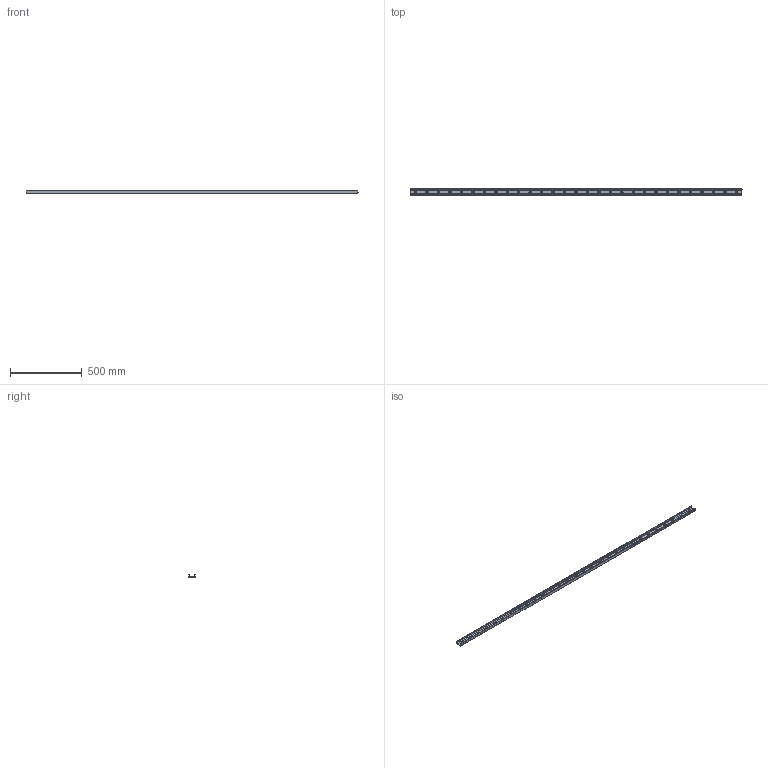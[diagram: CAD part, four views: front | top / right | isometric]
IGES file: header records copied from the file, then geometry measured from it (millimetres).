
Start section: SolidWorks IGES file using analytic representation for surfaces
Global section: file name: C:\Users\IanO\Desktop\43\L1943.ULV43_v2_20180121_IGES\L1943.ULV43-2320.igs; native system: SolidWorks 2017; preprocessor: SolidWorks 2017; author: IanO; date: 190121.090301; units: millimetre
Bounding box: 2320 x 43 x 21 mm (x, y, z)
Surface area: 360108.1 mm2 (no closed solid volume)
Topology: 0 solids, 0 shells, 142 faces, 2614 edges, 2614 vertices
Faces by surface type: revolution 129, bspline 13
